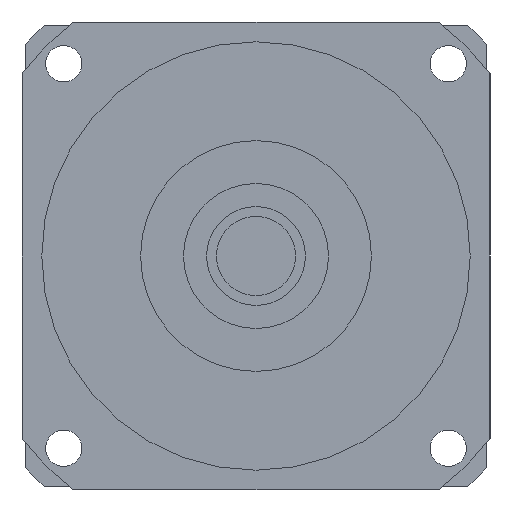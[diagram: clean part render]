
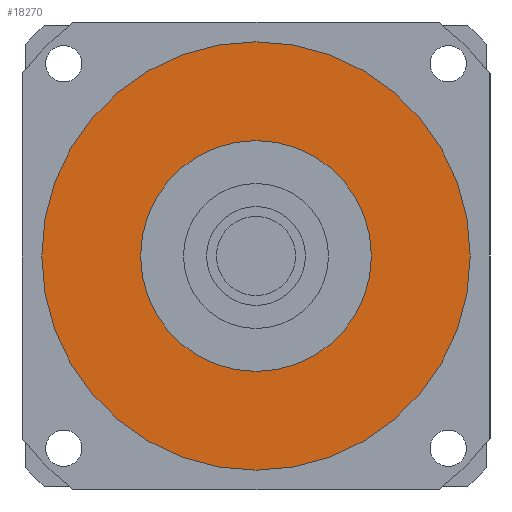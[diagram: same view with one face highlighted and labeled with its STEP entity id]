
A CAD part, left-side view. The second image highlights one B-rep face of the part: STEP entity #18270.
In plain terms, the highlighted planar face has unit normal (-1, 0, 0) as drawn and (0, 0, -1) by its records, which use the part's own axes.
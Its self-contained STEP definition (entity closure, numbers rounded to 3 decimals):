
#17690=CARTESIAN_POINT('',(65.,0.,-55.2));
#17700=VERTEX_POINT('',#17690);
#17790=CARTESIAN_POINT('',(-65.,0.,-55.2));
#17800=VERTEX_POINT('',#17790);
#17830=CARTESIAN_POINT('',(0.,0.,
-55.2));
#17840=DIRECTION('',(0.,0.,1.));
#17850=DIRECTION('',(0.,1.,0.));
#17860=AXIS2_PLACEMENT_3D('',#17830,#17840,#17850);
#17870=CIRCLE('',#17860,65.);
#17880=CARTESIAN_POINT('',(0.,65.,-55.2));
#17890=VERTEX_POINT('',#17880);
#17900=EDGE_CURVE('',#17890,#17800,#17870,.T.);
#17920=EDGE_CURVE('',#17700,#17890,#17870,.T.);
#17970=CARTESIAN_POINT('',(0.,0.,
-55.2));
#17980=DIRECTION('',(0.,0.,1.));
#17990=DIRECTION('',(-1.,0.,0.));
#18000=AXIS2_PLACEMENT_3D('',#17970,#17980,#17990);
#18010=PLANE('',#18000);
#18020=CARTESIAN_POINT('',(0.,0.,
-55.2));
#18030=DIRECTION('',(0.,0.,1.));
#18040=DIRECTION('',(0.,1.,0.));
#18050=AXIS2_PLACEMENT_3D('',#18020,#18030,#18040);
#18060=CIRCLE('',#18050,35.);
#18070=CARTESIAN_POINT('',(-35.,0.,-55.2));
#18080=VERTEX_POINT('',#18070);
#18090=CARTESIAN_POINT('',(35.,0.,-55.2));
#18100=VERTEX_POINT('',#18090);
#18110=EDGE_CURVE('',#18080,#18100,#18060,.T.);
#18120=ORIENTED_EDGE('',*,*,#18110,.T.);
#18130=CARTESIAN_POINT('',(0.,35.,-55.2));
#18140=VERTEX_POINT('',#18130);
#18150=EDGE_CURVE('',#18140,#18080,#18060,.T.);
#18160=ORIENTED_EDGE('',*,*,#18150,.T.);
#18170=EDGE_CURVE('',#18100,#18140,#18060,.T.);
#18180=ORIENTED_EDGE('',*,*,#18170,.T.);
#18190=EDGE_LOOP('',(#18180,#18160,#18120));
#18200=FACE_BOUND('',#18190,.T.);
#18210=ORIENTED_EDGE('',*,*,#17900,.F.);
#18220=EDGE_CURVE('',#17800,#17700,#17870,.T.);
#18230=ORIENTED_EDGE('',*,*,#18220,.F.);
#18240=ORIENTED_EDGE('',*,*,#17920,.F.);
#18250=EDGE_LOOP('',(#18240,#18230,#18210));
#18260=FACE_OUTER_BOUND('',#18250,.T.);
#18270=ADVANCED_FACE('',(#18200,#18260),#18010,.F.);
